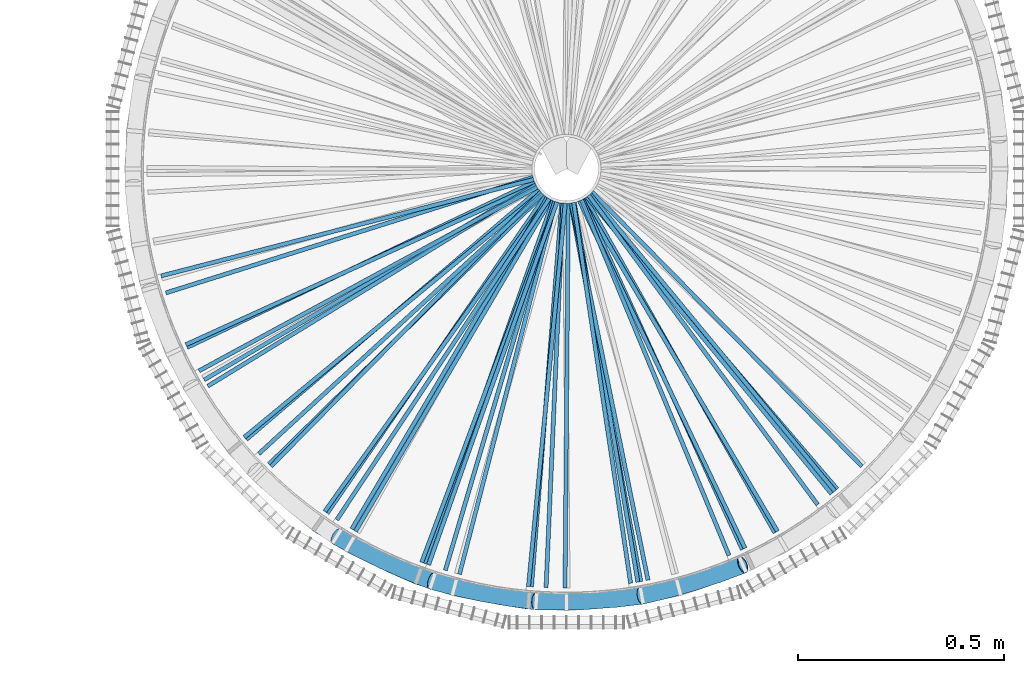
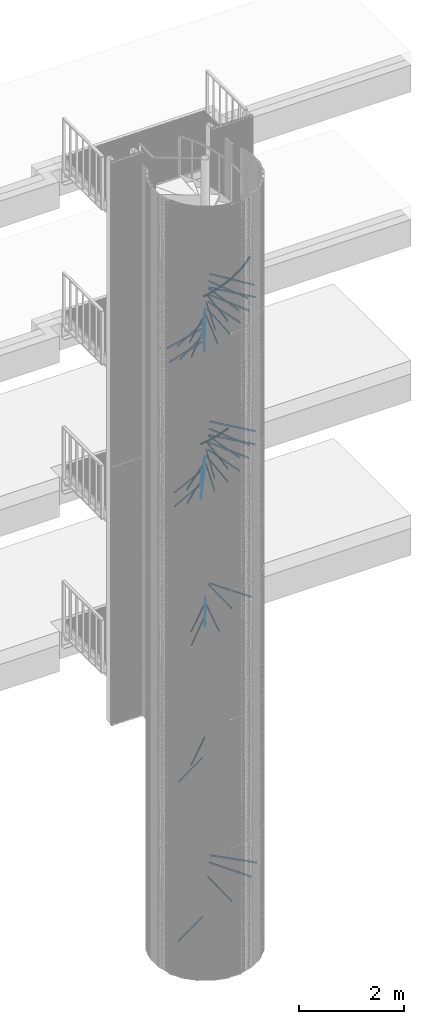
# One storey, part 173 of 1148: 46 beams, 6 members, 10 elements without a shape of their own.
"""IFC2X3 building model written with IfcOpenShell, lengths in millimetres."""

from ifc_helpers import new_model, entity, si_unit, frame, origin_with_axes, origin_2d_with_axis, place, context, subcontext, project, spatial, rectangle, extrude, material, type_object, element, aggregate, save


model = new_model("IFC2X3")

# Units and contexts
model_context = context("Model", 3, precision=1e-05, world=origin_with_axes())
body_context = subcontext(model_context, "Body", "Model", "MODEL_VIEW")
ifc_project = project(units=[si_unit("LENGTHUNIT", "METRE", prefix="MILLI"), si_unit("AREAUNIT", "SQUARE_METRE"), si_unit("VOLUMEUNIT", "CUBIC_METRE"), si_unit("MASSUNIT", "GRAM", prefix="KILO"), si_unit("TIMEUNIT", "SECOND"), si_unit("PLANEANGLEUNIT", "RADIAN"), si_unit("SOLIDANGLEUNIT", "STERADIAN"), si_unit("THERMODYNAMICTEMPERATUREUNIT", "DEGREE_CELSIUS"), si_unit("LUMINOUSINTENSITYUNIT", "LUMEN")], contexts=[model_context])

# Site, building, storey
site_placement = place(None, origin_with_axes())
site = spatial("IfcSite", under=ifc_project, at=site_placement, Name="Undefined", CompositionType="ELEMENT")
building_placement = place(site_placement, origin_with_axes())
building = spatial("IfcBuilding", under=site, at=building_placement, Name="Undefined", CompositionType="ELEMENT")
storey_placement = place(building_placement, origin_with_axes())
storey = spatial("IfcBuildingStorey", under=building, at=storey_placement, Name="Undefined", CompositionType="ELEMENT", Elevation=0.0)

# Assembly, beams
assembly_1_placement = place(storey_placement, origin_with_axes())
assembly_1 = element("IfcElementAssembly", 1, at=assembly_1_placement, inside=storey, Name="POTEAU", AssemblyPlace="NOTDEFINED", PredefinedType="NOTDEFINED")
ifc_material = material(Name="STEEL/S235JR")
beam_type = type_object("IfcBeamType", Name="PL10*40", PredefinedType="NOTDEFINED")
beam_1_placement = place(assembly_1_placement, frame((62.3936675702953, -56.3278473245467, 2139.28), z_axis=(0.0, 0.0, 1.0), x_axis=(0.701092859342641, -0.713069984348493, 0.0)))
beam_1 = element("IfcBeam", 2, at=beam_1_placement, type_object=beam_type, material=ifc_material, Name="RAIDISSEUR", context=body_context, shape_type="SweptSolid", body=[
    extrude(rectangle(XDim=10.0, YDim=40.0, at=origin_2d_with_axis()), frame((935.982964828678, -2.59787459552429e-14, -3.63797880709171e-12), z_axis=(-1.0, 0.0, 0.0), x_axis=(0.0, -1.0, 0.0)), (0.0, 0.0, 1.0), 935.98),
])
beam_2_placement = place(assembly_1_placement, frame((-56.3278473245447, -62.393667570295, 4920.64), z_axis=(0.0, 0.0, 1.0), x_axis=(-0.713069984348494, -0.70109285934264, 0.0)))
beam_2 = element("IfcBeam", 3, at=beam_2_placement, type_object=beam_type, material=ifc_material, Name="RAIDISSEUR", context=body_context, shape_type="SweptSolid", body=[
    extrude(rectangle(XDim=10.0, YDim=40.0, at=origin_2d_with_axis()), frame((935.982964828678, -2.59787459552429e-14, -3.63797880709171e-12), z_axis=(-1.0, 0.0, 0.0), x_axis=(0.0, -1.0, 0.0)), (0.0, 0.0, 1.0), 935.98),
])
beam_3_placement = place(assembly_1_placement, frame((-74.8463745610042, -38.2598530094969, 748.6), z_axis=(0.0, 0.0, 1.0), x_axis=(-0.861759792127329, -0.507316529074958, 0.0)))
beam_3 = element("IfcBeam", 4, at=beam_3_placement, type_object=beam_type, material=ifc_material, Name="RAIDISSEUR", context=body_context, shape_type="SweptSolid", body=[
    extrude(rectangle(XDim=10.0, YDim=40.0, at=origin_2d_with_axis()), frame((935.982964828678, -2.59787459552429e-14, -3.63797880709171e-12), z_axis=(-1.0, 0.0, 0.0), x_axis=(0.0, -1.0, 0.0)), (0.0, 0.0, 1.0), 935.98),
])
beam_4_placement = place(assembly_1_placement, frame((4.28918262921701, -83.9487882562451, 1675.72), z_axis=(0.0, 0.0, 1.0), x_axis=(-0.00846910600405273, -0.99996413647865, 0.0)))
beam_4 = element("IfcBeam", 5, at=beam_4_placement, type_object=beam_type, material=ifc_material, Name="RAIDISSEUR", context=body_context, shape_type="SweptSolid", body=[
    extrude(rectangle(XDim=10.0, YDim=40.0, at=origin_2d_with_axis()), frame((935.982964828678, -2.59787459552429e-14, -3.63797880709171e-12), z_axis=(-1.0, 0.0, 0.0), x_axis=(0.0, -1.0, 0.0)), (0.0, 0.0, 1.0), 935.98),
])
beam_5_placement = place(assembly_1_placement, frame((-74.8463745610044, -38.2598530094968, 4457.08), z_axis=(0.0, 0.0, 1.0), x_axis=(-0.861759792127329, -0.507316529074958, 0.0)))
beam_5 = element("IfcBeam", 6, at=beam_5_placement, type_object=beam_type, material=ifc_material, Name="RAIDISSEUR", context=body_context, shape_type="SweptSolid", body=[
    extrude(rectangle(XDim=10.0, YDim=40.0, at=origin_2d_with_axis()), frame((935.982964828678, -2.59787459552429e-14, -3.63797880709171e-12), z_axis=(-1.0, 0.0, 0.0), x_axis=(0.0, -1.0, 0.0)), (0.0, 0.0, 1.0), 935.98),
])
beam_6_placement = place(assembly_1_placement, frame((45.6889352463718, -70.5571919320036, 1984.76), z_axis=(0.0, 0.0, 1.0), x_axis=(0.492647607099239, -0.870228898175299, 0.0)))
beam_6 = element("IfcBeam", 7, at=beam_6_placement, type_object=beam_type, material=ifc_material, Name="RAIDISSEUR", context=body_context, shape_type="SweptSolid", body=[
    extrude(rectangle(XDim=10.0, YDim=40.0, at=origin_2d_with_axis()), frame((935.982964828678, -2.59787459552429e-14, -3.63797880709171e-12), z_axis=(-1.0, 0.0, 0.0), x_axis=(0.0, -1.0, 0.0)), (0.0, 0.0, 1.0), 935.98),
])
aggregate(assembly_1, [beam_1, beam_2, beam_3, beam_4, beam_5, beam_6])

assembly_2_placement = place(storey_placement, origin_with_axes())
assembly_2 = element("IfcElementAssembly", 8, at=assembly_2_placement, inside=storey, Name="POTEAU", AssemblyPlace="NOTDEFINED", PredefinedType="NOTDEFINED")
beam_7_placement = place(assembly_2_placement, frame((-71.3438275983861, -44.450583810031, 14605.12), z_axis=(0.0, 0.0, 1.0), x_axis=(-0.878694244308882, -0.477384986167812, 0.0)))
beam_7 = element("IfcBeam", 9, at=beam_7_placement, type_object=beam_type, material=ifc_material, Name="RAIDISSEUR", context=body_context, shape_type="SweptSolid", body=[
    extrude(rectangle(XDim=10.0, YDim=40.0, at=origin_2d_with_axis()), frame((935.982964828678, -2.59787459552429e-14, -3.63797880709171e-12), z_axis=(-1.0, 0.0, 0.0), x_axis=(0.0, -1.0, 0.0)), (0.0, 0.0, 1.0), 935.98),
])
beam_8_placement = place(assembly_2_placement, frame((-79.9781805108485, -25.8705774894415, 14448.6), z_axis=(0.0, 0.0, 1.0), x_axis=(-0.968083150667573, -0.250629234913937, 0.0)))
beam_8 = element("IfcBeam", 10, at=beam_8_placement, type_object=beam_type, material=ifc_material, Name="RAIDISSEUR", context=body_context, shape_type="SweptSolid", body=[
    extrude(rectangle(XDim=10.0, YDim=40.0, at=origin_2d_with_axis()), frame((935.982964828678, -2.59787459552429e-14, -3.63797880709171e-12), z_axis=(-1.0, 0.0, 0.0), x_axis=(0.0, -1.0, 0.0)), (0.0, 0.0, 1.0), 935.98),
])
beam_9_placement = place(assembly_2_placement, frame((-74.1672485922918, -39.5602751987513, 14292.08), z_axis=(0.0, 0.0, 1.0), x_axis=(-0.852774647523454, -0.522279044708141, 0.0)))
beam_9 = element("IfcBeam", 11, at=beam_9_placement, type_object=beam_type, material=ifc_material, Name="RAIDISSEUR", context=body_context, shape_type="SweptSolid", body=[
    extrude(rectangle(XDim=10.0, YDim=40.0, at=origin_2d_with_axis()), frame((935.982964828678, -2.59787459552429e-14, -3.63797880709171e-12), z_axis=(-1.0, 0.0, 0.0), x_axis=(0.0, -1.0, 0.0)), (0.0, 0.0, 1.0), 935.98),
])
beam_10_placement = place(assembly_2_placement, frame((-8.67684456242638, -83.6092608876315, 14918.16), z_axis=(0.0, 0.0, 1.0), x_axis=(-0.0438765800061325, -0.999036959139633, 0.0)))
beam_10 = element("IfcBeam", 12, at=beam_10_placement, type_object=beam_type, material=ifc_material, Name="RAIDISSEUR", context=body_context, shape_type="SweptSolid", body=[
    extrude(rectangle(XDim=10.0, YDim=40.0, at=origin_2d_with_axis()), frame((935.982964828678, -2.59787459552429e-14, -3.63797880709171e-12), z_axis=(-1.0, 0.0, 0.0), x_axis=(0.0, -1.0, 0.0)), (0.0, 0.0, 1.0), 935.98),
])
beam_11_placement = place(assembly_2_placement, frame((17.3688594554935, -82.2442633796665, 15387.72), z_axis=(0.0, 0.0, 1.0), x_axis=(0.148064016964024, -0.988977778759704, 0.0)))
beam_11 = element("IfcBeam", 13, at=beam_11_placement, type_object=beam_type, material=ifc_material, Name="RAIDISSEUR", context=body_context, shape_type="SweptSolid", body=[
    extrude(rectangle(XDim=10.0, YDim=40.0, at=origin_2d_with_axis()), frame((935.982964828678, -2.59787459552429e-14, -3.63797880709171e-12), z_axis=(-1.0, 0.0, 0.0), x_axis=(0.0, -1.0, 0.0)), (0.0, 0.0, 1.0), 935.98),
])
beam_12_placement = place(assembly_2_placement, frame((49.497363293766, -67.9397318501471, 15387.72), z_axis=(0.0, 0.0, 1.0), x_axis=(0.635879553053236, -0.771788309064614, 0.0)))
beam_12 = element("IfcBeam", 14, at=beam_12_placement, type_object=beam_type, material=ifc_material, Name="RAIDISSEUR", context=body_context, shape_type="SweptSolid", body=[
    extrude(rectangle(XDim=10.0, YDim=40.0, at=origin_2d_with_axis()), frame((935.982964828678, -2.59787459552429e-14, -3.63797880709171e-12), z_axis=(-1.0, 0.0, 0.0), x_axis=(0.0, -1.0, 0.0)), (0.0, 0.0, 1.0), 935.98),
])
beam_13_placement = place(assembly_2_placement, frame((36.7496182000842, -75.5993498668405, 15544.24), z_axis=(0.0, 0.0, 1.0), x_axis=(0.382921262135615, -0.923780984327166, 0.0)))
beam_13 = element("IfcBeam", 15, at=beam_13_placement, type_object=beam_type, material=ifc_material, Name="RAIDISSEUR", context=body_context, shape_type="SweptSolid", body=[
    extrude(rectangle(XDim=10.0, YDim=40.0, at=origin_2d_with_axis()), frame((935.982964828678, -2.59787459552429e-14, -3.63797880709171e-12), z_axis=(-1.0, 0.0, 0.0), x_axis=(0.0, -1.0, 0.0)), (0.0, 0.0, 1.0), 935.98),
])
beam_14_placement = place(assembly_2_placement, frame((53.9471355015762, -64.4631887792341, 15700.76), z_axis=(0.0, 0.0, 1.0), x_axis=(0.595029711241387, -0.80370370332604, 0.0)))
beam_14 = element("IfcBeam", 16, at=beam_14_placement, type_object=beam_type, material=ifc_material, Name="RAIDISSEUR", context=body_context, shape_type="SweptSolid", body=[
    extrude(rectangle(XDim=10.0, YDim=40.0, at=origin_2d_with_axis()), frame((935.982964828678, -2.59787459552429e-14, -3.63797880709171e-12), z_axis=(-1.0, 0.0, 0.0), x_axis=(0.0, -1.0, 0.0)), (0.0, 0.0, 1.0), 935.98),
])
beam_15_placement = place(assembly_2_placement, frame((-28.6460160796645, -79.0265898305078, 14761.64), z_axis=(0.0, 0.0, 1.0), x_axis=(-0.284262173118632, -0.958746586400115, 0.0)))
beam_15 = element("IfcBeam", 17, at=beam_15_placement, type_object=beam_type, material=ifc_material, Name="RAIDISSEUR", context=body_context, shape_type="SweptSolid", body=[
    extrude(rectangle(XDim=10.0, YDim=40.0, at=origin_2d_with_axis()), frame((935.982964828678, -2.59787459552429e-14, -3.63797880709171e-12), z_axis=(-1.0, 0.0, 0.0), x_axis=(0.0, -1.0, 0.0)), (0.0, 0.0, 1.0), 935.98),
])
beam_16_placement = place(assembly_2_placement, frame((-46.9133693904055, -69.7490638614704, 14605.12), z_axis=(0.0, 0.0, 1.0), x_axis=(-0.507760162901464, -0.861498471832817, 0.0)))
beam_16 = element("IfcBeam", 18, at=beam_16_placement, type_object=beam_type, material=ifc_material, Name="RAIDISSEUR", context=body_context, shape_type="SweptSolid", body=[
    extrude(rectangle(XDim=10.0, YDim=40.0, at=origin_2d_with_axis()), frame((935.982964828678, -2.59787459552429e-14, -3.63797880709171e-12), z_axis=(-1.0, 0.0, 0.0), x_axis=(0.0, -1.0, 0.0)), (0.0, 0.0, 1.0), 935.98),
])
beam_17_placement = place(assembly_2_placement, frame((-62.3936675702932, -56.3278473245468, 14448.6), z_axis=(0.0, 0.0, 1.0), x_axis=(-0.701092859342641, -0.713069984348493, 0.0)))
beam_17 = element("IfcBeam", 19, at=beam_17_placement, type_object=beam_type, material=ifc_material, Name="RAIDISSEUR", context=body_context, shape_type="SweptSolid", body=[
    extrude(rectangle(XDim=10.0, YDim=40.0, at=origin_2d_with_axis()), frame((935.982964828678, -2.59787459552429e-14, -3.63797880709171e-12), z_axis=(-1.0, 0.0, 0.0), x_axis=(0.0, -1.0, 0.0)), (0.0, 0.0, 1.0), 935.98),
])
beam_18_placement = place(assembly_2_placement, frame((-81.5346611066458, -20.4424845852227, 14135.56), z_axis=(0.0, 0.0, 1.0), x_axis=(-0.953794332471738, -0.300460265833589, 0.0)))
beam_18 = element("IfcBeam", 20, at=beam_18_placement, type_object=beam_type, material=ifc_material, Name="RAIDISSEUR", context=body_context, shape_type="SweptSolid", body=[
    extrude(rectangle(XDim=10.0, YDim=40.0, at=origin_2d_with_axis()), frame((935.982964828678, -2.59787459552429e-14, -3.63797880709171e-12), z_axis=(-1.0, 0.0, 0.0), x_axis=(0.0, -1.0, 0.0)), (0.0, 0.0, 1.0), 935.98),
])
beam_19_placement = place(assembly_2_placement, frame((-58.4710415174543, -60.3898455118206, 14761.64), z_axis=(0.0, 0.0, 1.0), x_axis=(-0.737103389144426, -0.675779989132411, 0.0)))
beam_19 = element("IfcBeam", 21, at=beam_19_placement, type_object=beam_type, material=ifc_material, Name="RAIDISSEUR", context=body_context, shape_type="SweptSolid", body=[
    extrude(rectangle(XDim=10.0, YDim=40.0, at=origin_2d_with_axis()), frame((935.982964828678, -2.59787459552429e-14, -3.63797880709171e-12), z_axis=(-1.0, 0.0, 0.0), x_axis=(0.0, -1.0, 0.0)), (0.0, 0.0, 1.0), 935.98),
])
beam_20_placement = place(assembly_2_placement, frame((-3.0437579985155, -84.003164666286, 15231.2), z_axis=(0.0, 0.0, 1.0), x_axis=(-0.0955894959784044, -0.995420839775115, 0.0)))
beam_20 = element("IfcBeam", 22, at=beam_20_placement, type_object=beam_type, material=ifc_material, Name="RAIDISSEUR", context=body_context, shape_type="SweptSolid", body=[
    extrude(rectangle(XDim=10.0, YDim=40.0, at=origin_2d_with_axis()), frame((935.982964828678, -2.59787459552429e-14, -3.63797880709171e-12), z_axis=(-1.0, 0.0, 0.0), x_axis=(0.0, -1.0, 0.0)), (0.0, 0.0, 1.0), 935.98),
])
beam_21_placement = place(assembly_2_placement, frame((11.8078056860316, -83.2248271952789, 15074.68), z_axis=(0.0, 0.0, 1.0), x_axis=(0.199115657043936, -0.979975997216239, 0.0)))
beam_21 = element("IfcBeam", 23, at=beam_21_placement, type_object=beam_type, material=ifc_material, Name="RAIDISSEUR", context=body_context, shape_type="SweptSolid", body=[
    extrude(rectangle(XDim=10.0, YDim=40.0, at=origin_2d_with_axis()), frame((935.982964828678, -2.59787459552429e-14, -3.63797880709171e-12), z_axis=(-1.0, 0.0, 0.0), x_axis=(0.0, -1.0, 0.0)), (0.0, 0.0, 1.0), 935.98),
])
beam_22_placement = place(assembly_2_placement, frame((31.5909713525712, -77.896127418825, 15231.2), z_axis=(0.0, 0.0, 1.0), x_axis=(0.430278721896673, -0.902696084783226, 0.0)))
beam_22 = element("IfcBeam", 24, at=beam_22_placement, type_object=beam_type, material=ifc_material, Name="RAIDISSEUR", context=body_context, shape_type="SweptSolid", body=[
    extrude(rectangle(XDim=10.0, YDim=40.0, at=origin_2d_with_axis()), frame((935.982964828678, -2.59787459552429e-14, -3.63797880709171e-12), z_axis=(-1.0, 0.0, 0.0), x_axis=(0.0, -1.0, 0.0)), (0.0, 0.0, 1.0), 935.98),
])
beam_23_placement = place(assembly_2_placement, frame((-42.1245757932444, -72.741434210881, 14918.16), z_axis=(0.0, 0.0, 1.0), x_axis=(-0.551722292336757, -0.83402788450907, 0.0)))
beam_23 = element("IfcBeam", 25, at=beam_23_placement, type_object=beam_type, material=ifc_material, Name="RAIDISSEUR", context=body_context, shape_type="SweptSolid", body=[
    extrude(rectangle(XDim=10.0, YDim=40.0, at=origin_2d_with_axis()), frame((935.982964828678, -2.59787459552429e-14, -3.63797880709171e-12), z_axis=(-1.0, 0.0, 0.0), x_axis=(0.0, -1.0, 0.0)), (0.0, 0.0, 1.0), 935.98),
])
beam_24_placement = place(assembly_2_placement, frame((-23.275550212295, -80.7715599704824, 15074.68), z_axis=(0.0, 0.0, 1.0), x_axis=(-0.333564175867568, -0.942727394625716, 0.0)))
beam_24 = element("IfcBeam", 26, at=beam_24_placement, type_object=beam_type, material=ifc_material, Name="RAIDISSEUR", context=body_context, shape_type="SweptSolid", body=[
    extrude(rectangle(XDim=10.0, YDim=40.0, at=origin_2d_with_axis()), frame((935.982964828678, -2.59787459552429e-14, -3.63797880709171e-12), z_axis=(-1.0, 0.0, 0.0), x_axis=(0.0, -1.0, 0.0)), (0.0, 0.0, 1.0), 935.98),
])
aggregate(assembly_2, [beam_7, beam_8, beam_9, beam_10, beam_11, beam_12, beam_13, beam_14, beam_15, beam_16, beam_17, beam_18, beam_19, beam_20, beam_21, beam_22, beam_23, beam_24])

assembly_3_placement = place(storey_placement, origin_with_axes())
assembly_3 = element("IfcElementAssembly", 27, at=assembly_3_placement, inside=storey, Name="POTEAU", AssemblyPlace="NOTDEFINED", PredefinedType="NOTDEFINED")
beam_25_placement = place(assembly_3_placement, frame((-32.7426898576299, -77.419069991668, 11318.16), z_axis=(0.0, 0.0, 1.0), x_axis=(-0.33404952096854, -0.942555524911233, 0.0)))
beam_25 = element("IfcBeam", 28, at=beam_25_placement, type_object=beam_type, material=ifc_material, Name="RAIDISSEUR", context=body_context, shape_type="SweptSolid", body=[
    extrude(rectangle(XDim=10.0, YDim=40.0, at=origin_2d_with_axis()), frame((935.982964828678, -2.59787459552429e-14, -3.63797880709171e-12), z_axis=(-1.0, 0.0, 0.0), x_axis=(0.0, -1.0, 0.0)), (0.0, 0.0, 1.0), 935.98),
])
beam_26_placement = place(assembly_3_placement, frame((18.8015744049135, -81.9286087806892, 11944.24), z_axis=(0.0, 0.0, 1.0), x_axis=(0.165301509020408, -0.986243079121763, 0.0)))
beam_26 = element("IfcBeam", 29, at=beam_26_placement, type_object=beam_type, material=ifc_material, Name="RAIDISSEUR", context=body_context, shape_type="SweptSolid", body=[
    extrude(rectangle(XDim=10.0, YDim=40.0, at=origin_2d_with_axis()), frame((935.982964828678, -2.59787459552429e-14, -3.63797880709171e-12), z_axis=(-1.0, 0.0, 0.0), x_axis=(0.0, -1.0, 0.0)), (0.0, 0.0, 1.0), 935.98),
])
beam_27_placement = place(assembly_3_placement, frame((10.3535337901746, -83.4182262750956, 11631.2), z_axis=(0.0, 0.0, 1.0), x_axis=(0.181982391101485, -0.983301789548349, 0.0)))
beam_27 = element("IfcBeam", 30, at=beam_27_placement, type_object=beam_type, material=ifc_material, Name="RAIDISSEUR", context=body_context, shape_type="SweptSolid", body=[
    extrude(rectangle(XDim=10.0, YDim=40.0, at=origin_2d_with_axis()), frame((935.982964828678, -2.59787459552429e-14, -3.63797880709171e-12), z_axis=(-1.0, 0.0, 0.0), x_axis=(0.0, -1.0, 0.0)), (0.0, 0.0, 1.0), 935.98),
])
beam_28_placement = place(assembly_3_placement, frame((39.3656105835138, -74.2707535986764, 12100.76), z_axis=(0.0, 0.0, 1.0), x_axis=(0.414927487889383, -0.909854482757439, 0.0)))
beam_28 = element("IfcBeam", 31, at=beam_28_placement, type_object=beam_type, material=ifc_material, Name="RAIDISSEUR", context=body_context, shape_type="SweptSolid", body=[
    extrude(rectangle(XDim=10.0, YDim=40.0, at=origin_2d_with_axis()), frame((935.982964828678, -2.59787459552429e-14, -3.63797880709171e-12), z_axis=(-1.0, 0.0, 0.0), x_axis=(0.0, -1.0, 0.0)), (0.0, 0.0, 1.0), 935.98),
])
beam_29_placement = place(assembly_3_placement, frame((57.246945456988, -61.5514692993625, 12257.28), z_axis=(0.0, 0.0, 1.0), x_axis=(0.636276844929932, -0.771460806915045, 0.0)))
beam_29 = element("IfcBeam", 32, at=beam_29_placement, type_object=beam_type, material=ifc_material, Name="RAIDISSEUR", context=body_context, shape_type="SweptSolid", body=[
    extrude(rectangle(XDim=10.0, YDim=40.0, at=origin_2d_with_axis()), frame((935.982964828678, -2.59787459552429e-14, -3.63797880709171e-12), z_axis=(-1.0, 0.0, 0.0), x_axis=(0.0, -1.0, 0.0)), (0.0, 0.0, 1.0), 935.98),
])
beam_30_placement = place(assembly_3_placement, frame((-51.6645395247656, -66.30664743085, 11161.64), z_axis=(0.0, 0.0, 1.0), x_axis=(-0.56661838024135, -0.823980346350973, 0.0)))
beam_30 = element("IfcBeam", 33, at=beam_30_placement, type_object=beam_type, material=ifc_material, Name="RAIDISSEUR", context=body_context, shape_type="SweptSolid", body=[
    extrude(rectangle(XDim=10.0, YDim=40.0, at=origin_2d_with_axis()), frame((935.982964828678, -2.59787459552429e-14, -3.63797880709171e-12), z_axis=(-1.0, 0.0, 0.0), x_axis=(0.0, -1.0, 0.0)), (0.0, 0.0, 1.0), 935.98),
])
beam_31_placement = place(assembly_3_placement, frame((-67.065536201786, -50.6755364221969, 11005.12), z_axis=(0.0, 0.0, 1.0), x_axis=(-0.760573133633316, -0.649252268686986, 0.0)))
beam_31 = element("IfcBeam", 34, at=beam_31_placement, type_object=beam_type, material=ifc_material, Name="RAIDISSEUR", context=body_context, shape_type="SweptSolid", body=[
    extrude(rectangle(XDim=10.0, YDim=40.0, at=origin_2d_with_axis()), frame((935.982964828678, -2.59787459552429e-14, -3.63797880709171e-12), z_axis=(-1.0, 0.0, 0.0), x_axis=(0.0, -1.0, 0.0)), (0.0, 0.0, 1.0), 935.98),
])
beam_32_placement = place(assembly_3_placement, frame((-77.8961274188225, -31.5909713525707, 10848.6), z_axis=(0.0, 0.0, 1.0), x_axis=(-0.902696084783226, -0.430278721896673, 0.0)))
beam_32 = element("IfcBeam", 35, at=beam_32_placement, type_object=beam_type, material=ifc_material, Name="RAIDISSEUR", context=body_context, shape_type="SweptSolid", body=[
    extrude(rectangle(XDim=10.0, YDim=40.0, at=origin_2d_with_axis()), frame((935.982964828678, -2.59787459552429e-14, -3.63797880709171e-12), z_axis=(-1.0, 0.0, 0.0), x_axis=(0.0, -1.0, 0.0)), (0.0, 0.0, 1.0), 935.98),
])
beam_33_placement = place(assembly_3_placement, frame((-74.2707535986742, -39.365610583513, 11161.64), z_axis=(0.0, 0.0, 1.0), x_axis=(-0.909854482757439, -0.414927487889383, 0.0)))
beam_33 = element("IfcBeam", 36, at=beam_33_placement, type_object=beam_type, material=ifc_material, Name="RAIDISSEUR", context=body_context, shape_type="SweptSolid", body=[
    extrude(rectangle(XDim=10.0, YDim=40.0, at=origin_2d_with_axis()), frame((935.982964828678, -2.59787459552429e-14, -3.63797880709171e-12), z_axis=(-1.0, 0.0, 0.0), x_axis=(0.0, -1.0, 0.0)), (0.0, 0.0, 1.0), 935.98),
])
beam_34_placement = place(assembly_3_placement, frame((-24.6816633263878, -80.3530437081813, 11631.2), z_axis=(0.0, 0.0, 1.0), x_axis=(-0.349966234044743, -0.936762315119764, 0.0)))
beam_34 = element("IfcBeam", 37, at=beam_34_placement, type_object=beam_type, material=ifc_material, Name="RAIDISSEUR", context=body_context, shape_type="SweptSolid", body=[
    extrude(rectangle(XDim=10.0, YDim=40.0, at=origin_2d_with_axis()), frame((935.982964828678, -2.59787459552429e-14, -3.63797880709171e-12), z_axis=(-1.0, 0.0, 0.0), x_axis=(0.0, -1.0, 0.0)), (0.0, 0.0, 1.0), 935.98),
])
beam_35_placement = place(assembly_3_placement, frame((-11.5894799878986, -83.255510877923, 11474.68), z_axis=(0.0, 0.0, 1.0), x_axis=(-0.0787157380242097, -0.996897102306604, 0.0)))
beam_35 = element("IfcBeam", 38, at=beam_35_placement, type_object=beam_type, material=ifc_material, Name="RAIDISSEUR", context=body_context, shape_type="SweptSolid", body=[
    extrude(rectangle(XDim=10.0, YDim=40.0, at=origin_2d_with_axis()), frame((935.982964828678, -2.59787459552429e-14, -3.63797880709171e-12), z_axis=(-1.0, 0.0, 0.0), x_axis=(0.0, -1.0, 0.0)), (0.0, 0.0, 1.0), 935.98),
])
beam_36_placement = place(assembly_3_placement, frame((-3.04375799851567, -84.0031646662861, 11787.72), z_axis=(0.0, 0.0, 1.0), x_axis=(-0.0955894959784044, -0.995420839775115, 0.0)))
beam_36 = element("IfcBeam", 39, at=beam_36_placement, type_object=beam_type, material=ifc_material, Name="RAIDISSEUR", context=body_context, shape_type="SweptSolid", body=[
    extrude(rectangle(XDim=10.0, YDim=40.0, at=origin_2d_with_axis()), frame((935.982964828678, -2.59787459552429e-14, -3.63797880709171e-12), z_axis=(-1.0, 0.0, 0.0), x_axis=(0.0, -1.0, 0.0)), (0.0, 0.0, 1.0), 935.98),
])
beam_37_placement = place(assembly_3_placement, frame((-61.5514692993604, -57.2469454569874, 11318.16), z_axis=(0.0, 0.0, 1.0), x_axis=(-0.771460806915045, -0.636276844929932, 0.0)))
beam_37 = element("IfcBeam", 40, at=beam_37_placement, type_object=beam_type, material=ifc_material, Name="RAIDISSEUR", context=body_context, shape_type="SweptSolid", body=[
    extrude(rectangle(XDim=10.0, YDim=40.0, at=origin_2d_with_axis()), frame((935.982964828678, -2.59787459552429e-14, -3.63797880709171e-12), z_axis=(-1.0, 0.0, 0.0), x_axis=(0.0, -1.0, 0.0)), (0.0, 0.0, 1.0), 935.98),
])
beam_38_placement = place(assembly_3_placement, frame((-44.6375540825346, -71.2269955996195, 11474.68), z_axis=(0.0, 0.0, 1.0), x_axis=(-0.580493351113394, -0.814264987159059, 0.0)))
beam_38 = element("IfcBeam", 41, at=beam_38_placement, type_object=beam_type, material=ifc_material, Name="RAIDISSEUR", context=body_context, shape_type="SweptSolid", body=[
    extrude(rectangle(XDim=10.0, YDim=40.0, at=origin_2d_with_axis()), frame((935.982964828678, -2.59787459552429e-14, -3.63797880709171e-12), z_axis=(-1.0, 0.0, 0.0), x_axis=(0.0, -1.0, 0.0)), (0.0, 0.0, 1.0), 935.98),
])
beam_39_placement = place(assembly_3_placement, frame((31.5909713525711, -77.8961274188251, 11787.72), z_axis=(0.0, 0.0, 1.0), x_axis=(0.430278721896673, -0.902696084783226, 0.0)))
beam_39 = element("IfcBeam", 42, at=beam_39_placement, type_object=beam_type, material=ifc_material, Name="RAIDISSEUR", context=body_context, shape_type="SweptSolid", body=[
    extrude(rectangle(XDim=10.0, YDim=40.0, at=origin_2d_with_axis()), frame((935.982964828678, -2.59787459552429e-14, -3.63797880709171e-12), z_axis=(-1.0, 0.0, 0.0), x_axis=(0.0, -1.0, 0.0)), (0.0, 0.0, 1.0), 935.98),
])
beam_40_placement = place(assembly_3_placement, frame((50.6755364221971, -67.0655362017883, 11944.24), z_axis=(0.0, 0.0, 1.0), x_axis=(0.649252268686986, -0.760573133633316, 0.0)))
beam_40 = element("IfcBeam", 43, at=beam_40_placement, type_object=beam_type, material=ifc_material, Name="RAIDISSEUR", context=body_context, shape_type="SweptSolid", body=[
    extrude(rectangle(XDim=10.0, YDim=40.0, at=origin_2d_with_axis()), frame((935.982964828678, -2.59787459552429e-14, -3.63797880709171e-12), z_axis=(-1.0, 0.0, 0.0), x_axis=(0.0, -1.0, 0.0)), (0.0, 0.0, 1.0), 935.98),
])
aggregate(assembly_3, [beam_25, beam_26, beam_27, beam_28, beam_29, beam_30, beam_31, beam_32, beam_33, beam_34, beam_35, beam_36, beam_37, beam_38, beam_39, beam_40])

assembly_4_placement = place(storey_placement, origin_with_axes())
assembly_4 = element("IfcElementAssembly", 44, at=assembly_4_placement, inside=storey, Name="POTEAU", AssemblyPlace="NOTDEFINED", PredefinedType="NOTDEFINED")
beam_41_placement = place(assembly_4_placement, frame((38.2598530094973, -74.8463745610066, 8500.76000000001), z_axis=(0.0, 0.0, 1.0), x_axis=(0.507316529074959, -0.861759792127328, 0.0)))
beam_41 = element("IfcBeam", 45, at=beam_41_placement, type_object=beam_type, material=ifc_material, Name="RAIDISSEUR", context=body_context, shape_type="SweptSolid", body=[
    extrude(rectangle(XDim=10.0, YDim=40.0, at=origin_2d_with_axis()), frame((935.982964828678, -2.59787459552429e-14, -3.63797880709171e-12), z_axis=(-1.0, 0.0, 0.0), x_axis=(0.0, -1.0, 0.0)), (0.0, 0.0, 1.0), 935.98),
])
beam_42_placement = place(assembly_4_placement, frame((-62.3936675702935, -56.3278473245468, 7718.16), z_axis=(0.0, 0.0, 1.0), x_axis=(-0.701092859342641, -0.713069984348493, 0.0)))
beam_42 = element("IfcBeam", 46, at=beam_42_placement, type_object=beam_type, material=ifc_material, Name="RAIDISSEUR", context=body_context, shape_type="SweptSolid", body=[
    extrude(rectangle(XDim=10.0, YDim=40.0, at=origin_2d_with_axis()), frame((935.982964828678, -2.59787459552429e-14, -3.63797880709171e-12), z_axis=(-1.0, 0.0, 0.0), x_axis=(0.0, -1.0, 0.0)), (0.0, 0.0, 1.0), 935.98),
])
beam_43_placement = place(assembly_4_placement, frame((-56.3278473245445, -62.3936675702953, 8031.2), z_axis=(0.0, 0.0, 1.0), x_axis=(-0.713069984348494, -0.70109285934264, 0.0)))
beam_43 = element("IfcBeam", 47, at=beam_43_placement, type_object=beam_type, material=ifc_material, Name="RAIDISSEUR", context=body_context, shape_type="SweptSolid", body=[
    extrude(rectangle(XDim=10.0, YDim=40.0, at=origin_2d_with_axis()), frame((935.982964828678, -2.59787459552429e-14, -3.63797880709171e-12), z_axis=(-1.0, 0.0, 0.0), x_axis=(0.0, -1.0, 0.0)), (0.0, 0.0, 1.0), 935.98),
])
beam_44_placement = place(assembly_4_placement, frame((-25.8705774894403, -79.9781805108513, 8031.2), z_axis=(0.0, 0.0, 1.0), x_axis=(-0.250629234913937, -0.968083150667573, 0.0)))
beam_44 = element("IfcBeam", 48, at=beam_44_placement, type_object=beam_type, material=ifc_material, Name="RAIDISSEUR", context=body_context, shape_type="SweptSolid", body=[
    extrude(rectangle(XDim=10.0, YDim=40.0, at=origin_2d_with_axis()), frame((935.982964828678, -2.59787459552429e-14, -3.63797880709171e-12), z_axis=(-1.0, 0.0, 0.0), x_axis=(0.0, -1.0, 0.0)), (0.0, 0.0, 1.0), 935.98),
])
beam_45_placement = place(assembly_4_placement, frame((-38.2598530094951, -74.8463745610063, 8187.72), z_axis=(0.0, 0.0, 1.0), x_axis=(-0.50731652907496, -0.861759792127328, 0.0)))
beam_45 = element("IfcBeam", 49, at=beam_45_placement, type_object=beam_type, material=ifc_material, Name="RAIDISSEUR", context=body_context, shape_type="SweptSolid", body=[
    extrude(rectangle(XDim=10.0, YDim=40.0, at=origin_2d_with_axis()), frame((935.982964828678, -2.59787459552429e-14, -3.63797880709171e-12), z_axis=(-1.0, 0.0, 0.0), x_axis=(0.0, -1.0, 0.0)), (0.0, 0.0, 1.0), 935.98),
])
beam_46_placement = place(assembly_4_placement, frame((4.28918262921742, -83.9487882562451, 8500.76000000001), z_axis=(0.0, 0.0, 1.0), x_axis=(-0.00846910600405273, -0.99996413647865, 0.0)))
beam_46 = element("IfcBeam", 50, at=beam_46_placement, type_object=beam_type, material=ifc_material, Name="RAIDISSEUR", context=body_context, shape_type="SweptSolid", body=[
    extrude(rectangle(XDim=10.0, YDim=40.0, at=origin_2d_with_axis()), frame((935.982964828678, -2.59787459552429e-14, -3.63797880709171e-12), z_axis=(-1.0, 0.0, 0.0), x_axis=(0.0, -1.0, 0.0)), (0.0, 0.0, 1.0), 935.98),
])
aggregate(assembly_4, [beam_41, beam_42, beam_43, beam_44, beam_45, beam_46])

# Assembly, member
assembly_5_placement = place(storey_placement, origin_with_axes())
assembly_5 = element("IfcElementAssembly", 51, at=assembly_5_placement, inside=storey, Name="MONTANT", AssemblyPlace="NOTDEFINED", PredefinedType="NOTDEFINED")
member_type = type_object("IfcMemberType", Name="TUBE-42.4*3.2", PredefinedType="NOTDEFINED")
member_1_placement = place(assembly_5_placement, frame((-360.489231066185, -990.436022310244, 12598.6800000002), z_axis=(-0.216439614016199, -0.97629600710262, 3.63797880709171e-12), x_axis=(0.848601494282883, -0.188130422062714, 0.494451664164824)))
member_1 = element("IfcMember", 52, at=member_1_placement, type_object=member_type, material=ifc_material, Name="MAIN_COURANTE", context=body_context, shape_type="SweptSolid", body=[
    entity("IfcRevolvedAreaSolid", entity("IfcCircleHollowProfileDef", "AREA", None, entity("IfcAxis2Placement2D", entity("IfcCartesianPoint", [0.0, 0.0]), entity("IfcDirection", [1.0, 0.0])), 21.200000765, 3.200000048), entity("IfcAxis2Placement3D", entity("IfcCartesianPoint", [316.552681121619, 9.09494701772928e-13, -1.82569453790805e-12]), entity("IfcDirection", [-0.997177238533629, 2.1263748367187e-18, 0.0750836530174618]), entity("IfcDirection", [0.0, -1.0, 0.0])), entity("IfcAxis1Placement", entity("IfcCartesianPoint", [0.0, -2108.0, 0.0]), entity("IfcDirection", [1.0, 0.0, 0.0])), 0.150308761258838),
])
aggregate(assembly_5, [member_1])

assembly_6_placement = place(storey_placement, origin_with_axes())
assembly_6 = element("IfcElementAssembly", 53, at=assembly_6_placement, inside=storey, Name="MONTANT", AssemblyPlace="NOTDEFINED", PredefinedType="NOTDEFINED")
member_2_placement = place(assembly_6_placement, frame((-604.5495639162, -863.386254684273, 12442.1599999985), z_axis=(-0.461748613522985, -0.887010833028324, -2.56448402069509e-10), x_axis=(0.770994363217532, -0.40135426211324, 0.494451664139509)))
member_2 = element("IfcMember", 54, at=member_2_placement, type_object=member_type, material=ifc_material, Name="MAIN_COURANTE", context=body_context, shape_type="SweptSolid", body=[
    entity("IfcRevolvedAreaSolid", entity("IfcCircleHollowProfileDef", "AREA", None, entity("IfcAxis2Placement2D", entity("IfcCartesianPoint", [0.0, 0.0]), entity("IfcDirection", [1.0, 0.0])), 21.200000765, 3.200000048), entity("IfcAxis2Placement3D", entity("IfcCartesianPoint", [316.552681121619, 9.09494701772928e-13, -1.82569453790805e-12]), entity("IfcDirection", [-0.997177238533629, 2.1263748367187e-18, 0.0750836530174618]), entity("IfcDirection", [0.0, -1.0, 0.0])), entity("IfcAxis1Placement", entity("IfcCartesianPoint", [0.0, -2108.0, 0.0]), entity("IfcDirection", [1.0, 0.0, 0.0])), 0.150308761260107),
])
aggregate(assembly_6, [member_2])

assembly_7_placement = place(storey_placement, origin_with_axes())
assembly_7 = element("IfcElementAssembly", 55, at=assembly_7_placement, inside=storey, Name="MONTANT", AssemblyPlace="NOTDEFINED", PredefinedType="NOTDEFINED")
member_3_placement = place(assembly_7_placement, frame((183.025179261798, -1037.98737167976, 16355.2000000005), z_axis=(0.292371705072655, -0.956304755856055, 6.79719960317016e-11), x_axis=(0.81666830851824, 0.249680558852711, 0.520300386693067)))
member_3 = element("IfcMember", 56, at=member_3_placement, type_object=member_type, material=ifc_material, Name="MAIN_COURANTE", context=body_context, shape_type="SweptSolid", body=[
    entity("IfcRevolvedAreaSolid", entity("IfcCircleHollowProfileDef", "AREA", None, entity("IfcAxis2Placement2D", entity("IfcCartesianPoint", [0.0, 0.0]), entity("IfcDirection", [1.0, 0.0])), 21.200000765, 3.200000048), entity("IfcAxis2Placement3D", entity("IfcCartesianPoint", [300.826222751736, 9.26193911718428e-13, -2.55538133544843e-15]), entity("IfcDirection", [-0.997451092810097, -5.56582410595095e-17, 0.0713534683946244]), entity("IfcDirection", [0.0, -1.0, 0.0])), entity("IfcAxis1Placement", entity("IfcCartesianPoint", [0.0, -2108.0, 0.0]), entity("IfcDirection", [1.0, 0.0, 0.0])), 0.142828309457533),
])
aggregate(assembly_7, [member_3])

assembly_8_placement = place(storey_placement, origin_with_axes())
assembly_8 = element("IfcElementAssembly", 57, at=assembly_8_placement, inside=storey, Name="MONTANT", AssemblyPlace="NOTDEFINED", PredefinedType="NOTDEFINED")
member_4_placement = place(assembly_8_placement, frame((-73.5233233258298, -1051.43250895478, 16198.6800000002), z_axis=(0.0523359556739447, -0.998629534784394, -1.91506842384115e-10), x_axis=(0.85281296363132, 0.0446940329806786, 0.520300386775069)))
member_4 = element("IfcMember", 58, at=member_4_placement, type_object=member_type, material=ifc_material, Name="MAIN_COURANTE", context=body_context, shape_type="SweptSolid", body=[
    entity("IfcRevolvedAreaSolid", entity("IfcCircleHollowProfileDef", "AREA", None, entity("IfcAxis2Placement2D", entity("IfcCartesianPoint", [0.0, 0.0]), entity("IfcDirection", [1.0, 0.0])), 21.200000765, 3.200000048), entity("IfcAxis2Placement3D", entity("IfcCartesianPoint", [300.826222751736, 9.26193911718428e-13, -2.55538133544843e-15]), entity("IfcDirection", [-0.997451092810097, -5.56582410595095e-17, 0.0713534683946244]), entity("IfcDirection", [0.0, -1.0, 0.0])), entity("IfcAxis1Placement", entity("IfcCartesianPoint", [0.0, -2108.0, 0.0]), entity("IfcDirection", [1.0, 0.0, 0.0])), 0.142828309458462),
])
aggregate(assembly_8, [member_4])

assembly_9_placement = place(storey_placement, origin_with_axes())
assembly_9 = element("IfcElementAssembly", 59, at=assembly_9_placement, inside=storey, Name="MONTANT", AssemblyPlace="NOTDEFINED", PredefinedType="NOTDEFINED")
member_5_placement = place(assembly_9_placement, frame((-325.703912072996, -1002.41356817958, 16042.1599999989), z_axis=(-0.190808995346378, -0.981627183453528, -1.54434019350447e-10), x_axis=(0.838293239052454, -0.162947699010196, 0.520300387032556)))
member_5 = element("IfcMember", 60, at=member_5_placement, type_object=member_type, material=ifc_material, Name="MAIN_COURANTE", context=body_context, shape_type="SweptSolid", body=[
    entity("IfcRevolvedAreaSolid", entity("IfcCircleHollowProfileDef", "AREA", None, entity("IfcAxis2Placement2D", entity("IfcCartesianPoint", [0.0, 0.0]), entity("IfcDirection", [1.0, 0.0])), 21.200000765, 3.200000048), entity("IfcAxis2Placement3D", entity("IfcCartesianPoint", [300.826222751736, 9.26193911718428e-13, -2.55538133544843e-15]), entity("IfcDirection", [-0.997451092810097, -5.56582410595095e-17, 0.0713534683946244]), entity("IfcDirection", [0.0, -1.0, 0.0])), entity("IfcAxis1Placement", entity("IfcCartesianPoint", [0.0, -2108.0, 0.0]), entity("IfcDirection", [1.0, 0.0, 0.0])), 0.142828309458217),
])
aggregate(assembly_9, [member_5])

assembly_10_placement = place(storey_placement, origin_with_axes())
assembly_10 = element("IfcElementAssembly", 61, at=assembly_10_placement, inside=storey, Name="MONTANT", AssemblyPlace="NOTDEFINED", PredefinedType="NOTDEFINED")
member_6_placement = place(assembly_10_placement, frame((-558.534904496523, -893.84269334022, 15885.6400000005), z_axis=(-0.422618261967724, -0.906307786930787, 0.0), x_axis=(0.773971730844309, -0.3609089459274, 0.520300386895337)))
member_6 = element("IfcMember", 62, at=member_6_placement, type_object=member_type, material=ifc_material, Name="MAIN_COURANTE", context=body_context, shape_type="SweptSolid", body=[
    entity("IfcRevolvedAreaSolid", entity("IfcCircleHollowProfileDef", "AREA", None, entity("IfcAxis2Placement2D", entity("IfcCartesianPoint", [0.0, 0.0]), entity("IfcDirection", [1.0, 0.0])), 21.200000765, 3.200000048), entity("IfcAxis2Placement3D", entity("IfcCartesianPoint", [300.826222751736, 9.26193911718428e-13, -2.55538133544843e-15]), entity("IfcDirection", [-0.997451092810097, -5.56582410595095e-17, 0.0713534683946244]), entity("IfcDirection", [0.0, -1.0, 0.0])), entity("IfcAxis1Placement", entity("IfcCartesianPoint", [0.0, -2108.0, 0.0]), entity("IfcDirection", [1.0, 0.0, 0.0])), 0.142828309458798),
])
aggregate(assembly_10, [member_6])

save(model, "model.ifc")
